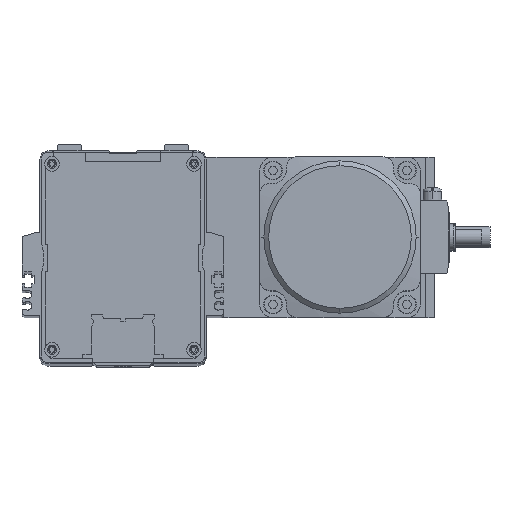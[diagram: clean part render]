
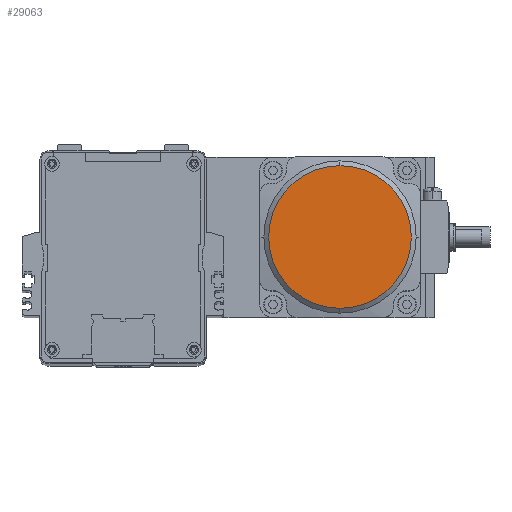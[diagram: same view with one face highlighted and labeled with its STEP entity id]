
A CAD part, top view. The second image highlights one B-rep face of the part: STEP entity #29063.
In plain terms, the highlighted planar face has unit normal (0, 0, 1).
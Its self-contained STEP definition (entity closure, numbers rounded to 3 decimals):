
#5390 = CARTESIAN_POINT ( 'NONE',  ( 268.19, -30.647, 99.5 ) ) ;
#5402 = CARTESIAN_POINT ( 'NONE',  ( 268.19, 22.585, 99.5 ) ) ;
#5480 = DIRECTION ( 'NONE',  ( 0., -1., 0. ) ) ;
#5481 = DIRECTION ( 'NONE',  ( 0., 0., -1. ) ) ;
#5484 = CIRCLE ( 'NONE', #5492, 26.616 ) ;
#5485 = CARTESIAN_POINT ( 'NONE',  ( 268.19, -4.031, 99.5 ) ) ;
#5492 = AXIS2_PLACEMENT_3D ( 'NONE', #5485, #5481, #5480 ) ;
#16400 = CIRCLE ( 'NONE', #16445, 26.616 ) ;
#16442 = DIRECTION ( 'NONE',  ( 0., -1., 0. ) ) ;
#16443 = DIRECTION ( 'NONE',  ( 0., 0., -1. ) ) ;
#16444 = CARTESIAN_POINT ( 'NONE',  ( 268.19, -4.031, 99.5 ) ) ;
#16445 = AXIS2_PLACEMENT_3D ( 'NONE', #16444, #16443, #16442 ) ;
#16451 = AXIS2_PLACEMENT_3D ( 'NONE', #16470, #16496, #16495 ) ;
#16470 = CARTESIAN_POINT ( 'NONE',  ( 254.882, -4.031, 99.5 ) ) ;
#16472 = PLANE ( 'NONE',  #16451 ) ;
#16495 = DIRECTION ( 'NONE',  ( 0., 1., 0. ) ) ;
#16496 = DIRECTION ( 'NONE',  ( 0., 0., 1. ) ) ;
#16502 = FACE_OUTER_BOUND ( 'NONE', #29024, .T. ) ;
#23497 = VERTEX_POINT ( 'NONE', #5390 ) ;
#23498 = VERTEX_POINT ( 'NONE', #5402 ) ;
#23548 = EDGE_CURVE ( 'NONE', #23497, #23498, #5484, .T. ) ;
#29024 = EDGE_LOOP ( 'NONE', ( #29065, #29068 ) ) ;
#29038 = EDGE_CURVE ( 'NONE', #23498, #23497, #16400, .T. ) ;
#29063 = ADVANCED_FACE ( 'NONE', ( #16502 ), #16472, .T. ) ;
#29065 = ORIENTED_EDGE ( 'NONE', *, *, #23548, .F. ) ;
#29068 = ORIENTED_EDGE ( 'NONE', *, *, #29038, .F. ) ;
